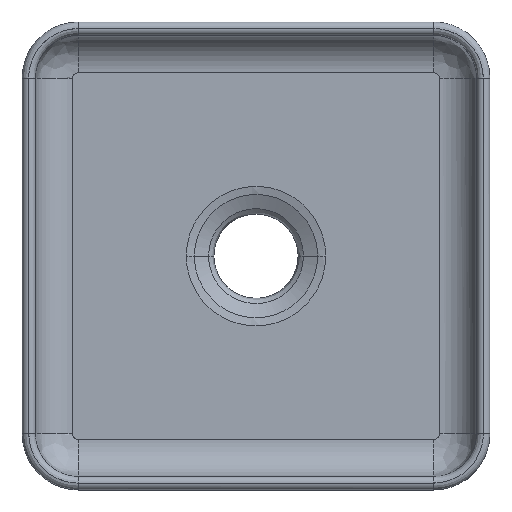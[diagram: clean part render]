
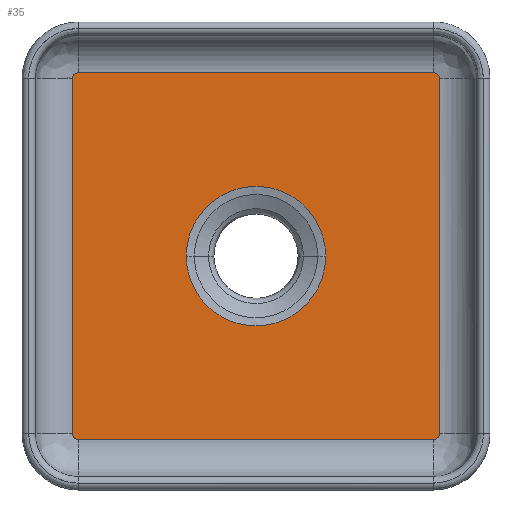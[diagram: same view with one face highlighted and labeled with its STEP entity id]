
A CAD part, top view. The second image highlights one B-rep face of the part: STEP entity #35.
In plain terms, the highlighted planar face has unit normal (0, 0, 1).
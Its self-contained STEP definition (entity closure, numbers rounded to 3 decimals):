
#35=ADVANCED_FACE('',(#97,#74),#844,.T.);
#74=FACE_BOUND('',#158,.T.);
#97=FACE_OUTER_BOUND('',#157,.T.);
#157=EDGE_LOOP('',(#293,#294,#295,#296,#297,#298,#299,#300));
#158=EDGE_LOOP('',(#301,#302));
#293=ORIENTED_EDGE('',*,*,#516,.F.);
#294=ORIENTED_EDGE('',*,*,#522,.F.);
#295=ORIENTED_EDGE('',*,*,#515,.F.);
#296=ORIENTED_EDGE('',*,*,#534,.F.);
#297=ORIENTED_EDGE('',*,*,#514,.F.);
#298=ORIENTED_EDGE('',*,*,#531,.F.);
#299=ORIENTED_EDGE('',*,*,#517,.F.);
#300=ORIENTED_EDGE('',*,*,#526,.F.);
#301=ORIENTED_EDGE('',*,*,#541,.T.);
#302=ORIENTED_EDGE('',*,*,#580,.T.);
#514=EDGE_CURVE('',#762,#760,#587,.T.);
#515=EDGE_CURVE('',#761,#764,#588,.T.);
#516=EDGE_CURVE('',#765,#758,#589,.T.);
#517=EDGE_CURVE('',#759,#763,#590,.T.);
#522=EDGE_CURVE('',#764,#765,#656,.T.);
#526=EDGE_CURVE('',#758,#759,#660,.T.);
#531=EDGE_CURVE('',#763,#762,#665,.T.);
#534=EDGE_CURVE('',#760,#761,#668,.T.);
#541=EDGE_CURVE('',#767,#787,#675,.T.);
#580=EDGE_CURVE('',#787,#767,#710,.T.);
#587=B_SPLINE_CURVE_WITH_KNOTS('',1,(#1583,#1584),.UNSPECIFIED.,.F.,.F.,
(2,2),(0.,190.),.UNSPECIFIED.);
#588=B_SPLINE_CURVE_WITH_KNOTS('',1,(#1585,#1586),.UNSPECIFIED.,.F.,.F.,
(2,2),(0.,190.),.UNSPECIFIED.);
#589=B_SPLINE_CURVE_WITH_KNOTS('',1,(#1587,#1588),.UNSPECIFIED.,.F.,.F.,
(2,2),(0.,190.),.UNSPECIFIED.);
#590=B_SPLINE_CURVE_WITH_KNOTS('',1,(#1589,#1590),.UNSPECIFIED.,.F.,.F.,
(2,2),(0.,190.),.UNSPECIFIED.);
#656=(
BOUNDED_CURVE()
B_SPLINE_CURVE(2,(#1603,#1604,#1605),.UNSPECIFIED.,.F.,.F.)
B_SPLINE_CURVE_WITH_KNOTS((3,3),(0.,4.712),
 .UNSPECIFIED.)
CURVE()
GEOMETRIC_REPRESENTATION_ITEM()
RATIONAL_B_SPLINE_CURVE((1.,0.707,1.))
REPRESENTATION_ITEM('')
);
#660=(
BOUNDED_CURVE()
B_SPLINE_CURVE(2,(#1614,#1615,#1616),.UNSPECIFIED.,.F.,.F.)
B_SPLINE_CURVE_WITH_KNOTS((3,3),(0.,4.712),
 .UNSPECIFIED.)
CURVE()
GEOMETRIC_REPRESENTATION_ITEM()
RATIONAL_B_SPLINE_CURVE((1.,0.707,1.))
REPRESENTATION_ITEM('')
);
#665=(
BOUNDED_CURVE()
B_SPLINE_CURVE(2,(#1628,#1629,#1630),.UNSPECIFIED.,.F.,.F.)
B_SPLINE_CURVE_WITH_KNOTS((3,3),(0.,4.712),
 .UNSPECIFIED.)
CURVE()
GEOMETRIC_REPRESENTATION_ITEM()
RATIONAL_B_SPLINE_CURVE((1.,0.707,1.))
REPRESENTATION_ITEM('')
);
#668=(
BOUNDED_CURVE()
B_SPLINE_CURVE(2,(#1636,#1637,#1638),.UNSPECIFIED.,.F.,.F.)
B_SPLINE_CURVE_WITH_KNOTS((3,3),(0.,4.712),
 .UNSPECIFIED.)
CURVE()
GEOMETRIC_REPRESENTATION_ITEM()
RATIONAL_B_SPLINE_CURVE((1.,0.707,1.))
REPRESENTATION_ITEM('')
);
#675=(
BOUNDED_CURVE()
B_SPLINE_CURVE(2,(#1657,#1658,#1659,#1660,#1661),.UNSPECIFIED.,.F.,.F.)
B_SPLINE_CURVE_WITH_KNOTS((3,2,3),(0.,58.552,117.104),
 .UNSPECIFIED.)
CURVE()
GEOMETRIC_REPRESENTATION_ITEM()
RATIONAL_B_SPLINE_CURVE((1.,0.707,1.,0.707,1.))
REPRESENTATION_ITEM('')
);
#710=(
BOUNDED_CURVE()
B_SPLINE_CURVE(2,(#1847,#1848,#1849,#1850,#1851),.UNSPECIFIED.,.F.,.F.)
B_SPLINE_CURVE_WITH_KNOTS((3,2,3),(117.104,175.657,234.209),
 .UNSPECIFIED.)
CURVE()
GEOMETRIC_REPRESENTATION_ITEM()
RATIONAL_B_SPLINE_CURVE((1.,0.707,1.,0.707,1.))
REPRESENTATION_ITEM('')
);
#758=VERTEX_POINT('',#1401);
#759=VERTEX_POINT('',#1402);
#760=VERTEX_POINT('',#1403);
#761=VERTEX_POINT('',#1404);
#762=VERTEX_POINT('',#1405);
#763=VERTEX_POINT('',#1406);
#764=VERTEX_POINT('',#1407);
#765=VERTEX_POINT('',#1408);
#767=VERTEX_POINT('',#1410);
#787=VERTEX_POINT('',#1430);
#844=PLANE('',#951);
#951=AXIS2_PLACEMENT_3D('',#1103,#991,$);
#991=DIRECTION('',(0.,0.,1.));
#1103=CARTESIAN_POINT('',(147.5,-147.5,16.));
#1401=CARTESIAN_POINT('',(-98.,95.,16.));
#1402=CARTESIAN_POINT('',(-95.,98.,16.));
#1403=CARTESIAN_POINT('',(98.,-95.,16.));
#1404=CARTESIAN_POINT('',(95.,-98.,16.));
#1405=CARTESIAN_POINT('',(98.,95.,16.));
#1406=CARTESIAN_POINT('',(95.,98.,16.));
#1407=CARTESIAN_POINT('',(-95.,-98.,16.));
#1408=CARTESIAN_POINT('',(-98.,-95.,16.));
#1410=CARTESIAN_POINT('',(37.276,0.,16.));
#1430=CARTESIAN_POINT('',(-37.276,0.,16.));
#1583=CARTESIAN_POINT('',(98.,95.,16.));
#1584=CARTESIAN_POINT('',(98.,-95.,16.));
#1585=CARTESIAN_POINT('',(95.,-98.,16.));
#1586=CARTESIAN_POINT('',(-95.,-98.,16.));
#1587=CARTESIAN_POINT('',(-98.,-95.,16.));
#1588=CARTESIAN_POINT('',(-98.,95.,16.));
#1589=CARTESIAN_POINT('',(-95.,98.,16.));
#1590=CARTESIAN_POINT('',(95.,98.,16.));
#1603=CARTESIAN_POINT('',(-95.,-98.,16.));
#1604=CARTESIAN_POINT('',(-98.,-98.,16.));
#1605=CARTESIAN_POINT('',(-98.,-95.,16.));
#1614=CARTESIAN_POINT('',(-98.,95.,16.));
#1615=CARTESIAN_POINT('',(-98.,98.,16.));
#1616=CARTESIAN_POINT('',(-95.,98.,16.));
#1628=CARTESIAN_POINT('',(95.,98.,16.));
#1629=CARTESIAN_POINT('',(98.,98.,16.));
#1630=CARTESIAN_POINT('',(98.,95.,16.));
#1636=CARTESIAN_POINT('',(98.,-95.,16.));
#1637=CARTESIAN_POINT('',(98.,-98.,16.));
#1638=CARTESIAN_POINT('',(95.,-98.,16.));
#1657=CARTESIAN_POINT('',(37.276,0.,16.));
#1658=CARTESIAN_POINT('',(37.276,-37.276,16.));
#1659=CARTESIAN_POINT('',(0.,-37.276,16.));
#1660=CARTESIAN_POINT('',(-37.276,-37.276,16.));
#1661=CARTESIAN_POINT('',(-37.276,0.,16.));
#1847=CARTESIAN_POINT('',(-37.276,0.,16.));
#1848=CARTESIAN_POINT('',(-37.276,37.276,16.));
#1849=CARTESIAN_POINT('',(0.,37.276,16.));
#1850=CARTESIAN_POINT('',(37.276,37.276,16.));
#1851=CARTESIAN_POINT('',(37.276,0.,16.));
